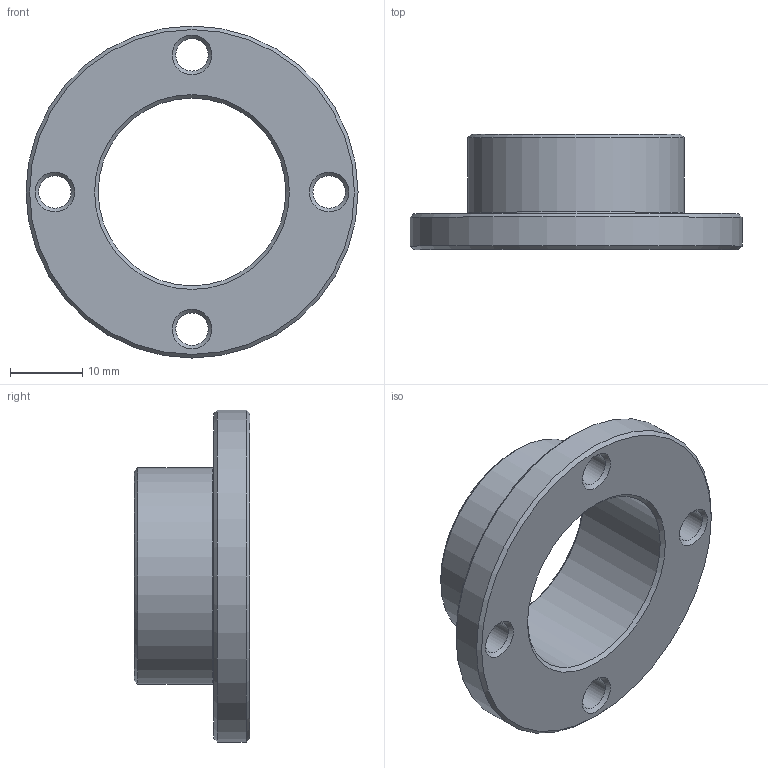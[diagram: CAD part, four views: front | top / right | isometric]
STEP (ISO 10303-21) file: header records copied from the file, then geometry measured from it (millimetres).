
FILE_DESCRIPTION(/* description */ (''),/* implementation_level */ '2;1');
FILE_NAME(/* name */ 'C:\Users\Daviddk\Dropbox\Fräse\Kamp und Kötter\Artikel\Lagerflansch Set\CAD-Dateien\Loslagerflansch.stp',/* time_stamp */ '2015-03-22T18:46:41+01:00',/* author */ ('Daviddk'),/* organization */ (''),/* preprocessor_version */ 'ST-DEVELOPER v15.6',/* originating_system */ 'Autodesk Inventor 2015',/* authorisation */ '');
FILE_SCHEMA (('AUTOMOTIVE_DESIGN { 1 0 10303 214 3 1 1 }'));
Length unit declared in the file: millimetre
Products named in the file (1): Loslagerflansch
Bounding box: 46 x 16 x 46 mm (x, y, z)
Volume: 7189.4 mm3; surface area: 5284.6 mm2
Topology: 1 solids, 1 shells, 24 faces, 53 edges, 32 vertices
Faces by surface type: cone 13, cylinder 7, plane 3, torus 1
Full cylindrical faces by diameter (mm): 4.5 x4, 26 x1, 30 x1, 46 x1
Entity records: 568 total; most frequent: DIRECTION 106, CARTESIAN_POINT 81, EDGE_LOOP 56, ORIENTED_EDGE 56, AXIS2_PLACEMENT_3D 53, FACE_BOUND 32, CIRCLE 28, VERTEX_POINT 28
